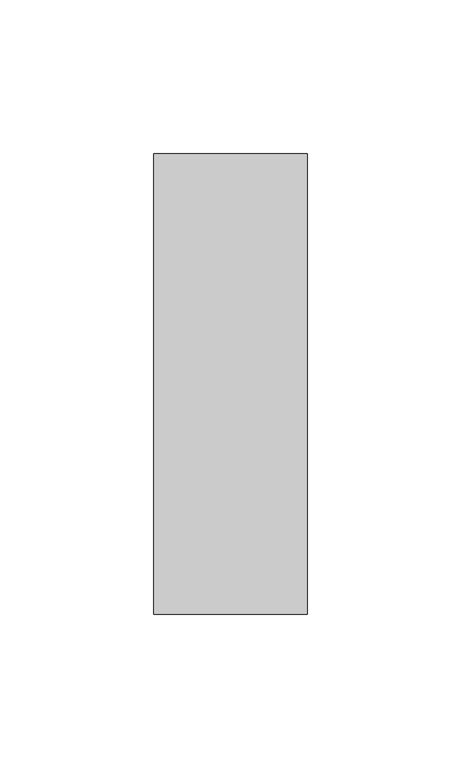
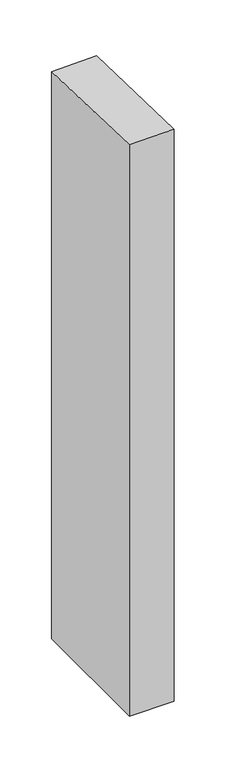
"""IFC4 building model written with IfcOpenShell, lengths in millimetres: member geometry, Прямоугольный импост : 50 x 150 мм."""

from ifc_helpers import new_model, si_unit, origin, place, context, project, spatial, faceted_brep, source, transform, mapped, element, save


def member_f863d81e(model_context):
    return source(origin(), model_context, "Body", "Brep", [
        faceted_brep([(25.0, 75.0, -671.4487131), (25.0, -75.0, -671.4487131), (-25.0, -75.0, -671.4487131), (-25.0, 75.0, -671.4487131), (-25.0, 75.0, -2.8717712), (25.0, 75.0, -1.8693547), (-25.0, -75.0, 1.8693547), (25.0, -75.0, 2.8717712)], [[[0, 1, 2, 3]], [[4, 5, 0, 3]], [[6, 4, 3, 2]], [[7, 6, 2, 1]], [[5, 7, 1, 0]], [[5, 4, 6, 7]]]),
    ])


if __name__ == "__main__":
    model = new_model("IFC4")
    model_context = context("Model", 3, world=origin())
    ifc_project = project(units=[si_unit("LENGTHUNIT", "METRE", prefix="MILLI")], contexts=[model_context])
    site = spatial("IfcSite", under=ifc_project)
    building = spatial("IfcBuilding", under=site)
    placement = place(None, origin())
    member_shape = member_f863d81e(model_context)
    element("IfcMember", 1, ObjectType="Прямоугольный импост : 50 x 150 мм", at=placement, inside=building, context=model_context, shape_type="MappedRepresentation", body=[
        mapped(member_shape, transform((0.0, 0.0, 0.0), x_axis=(1.0, 0.0, 0.0), y_axis=(0.0, 1.0, 0.0), z_axis=(0.0, 0.0, 1.0))),
    ])
    save(model, "model.ifc")
